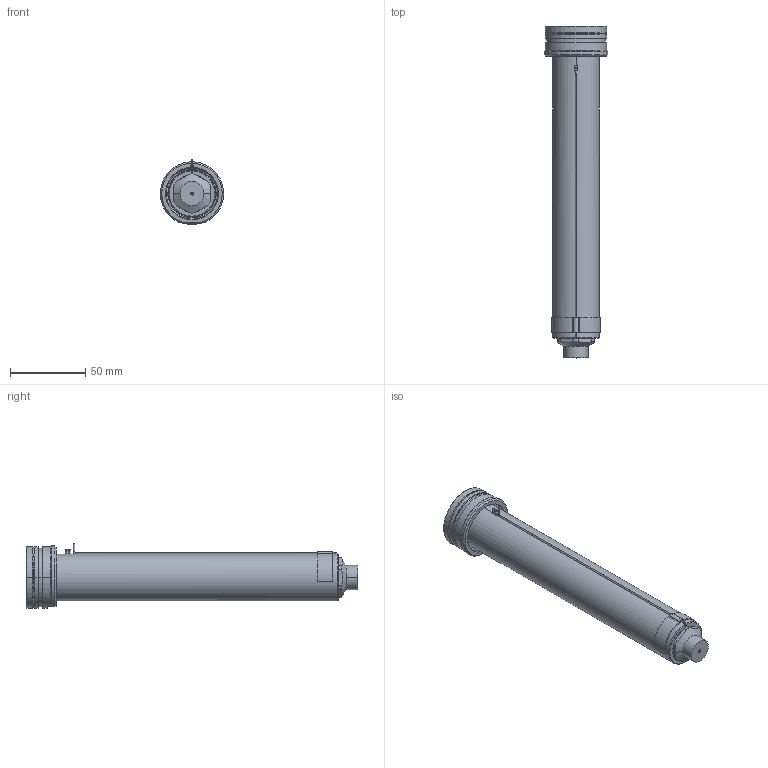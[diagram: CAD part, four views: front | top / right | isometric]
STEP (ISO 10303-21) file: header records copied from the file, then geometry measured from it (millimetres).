
FILE_DESCRIPTION((''),'2;1');
FILE_NAME('EO12_PG-FB_WR_200_SW','2024-02-19T11:40:14',('sundharh'),(''),'CREO PARAMETRIC BY PTC INC, 2023154','CREO PARAMETRIC BY PTC INC, 2023154','');
FILE_SCHEMA(('CONFIG_CONTROL_DESIGN'));
Length unit declared in the file: millimetre
Products named in the file (1): EO12_PG-FB_WR_200_SW
Bounding box: 41.85 x 220 x 43 mm (x, y, z)
Volume: 145692 mm3; surface area: 38223.6 mm2
Topology: 2 solids, 3 shells, 217 faces, 573 edges, 352 vertices
Faces by surface type: cylinder 82, plane 59, cone 43, torus 27, sphere 3, bspline 3
Entity records: 7854 total; most frequent: CARTESIAN_POINT 2355, DIRECTION 1219, ORIENTED_EDGE 1134, EDGE_CURVE 567, AXIS2_PLACEMENT_3D 513, VERTEX_POINT 352, CIRCLE 299, EDGE_LOOP 235
